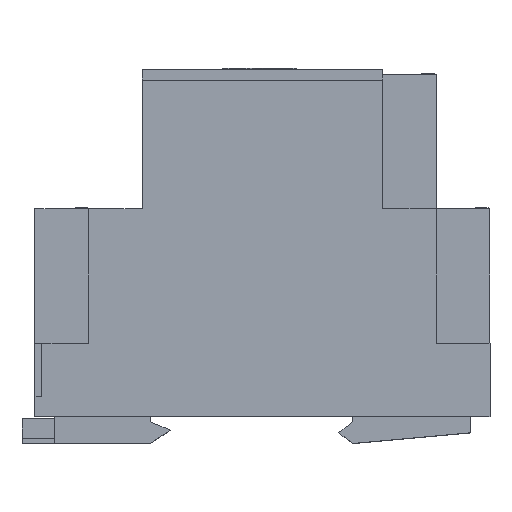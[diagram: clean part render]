
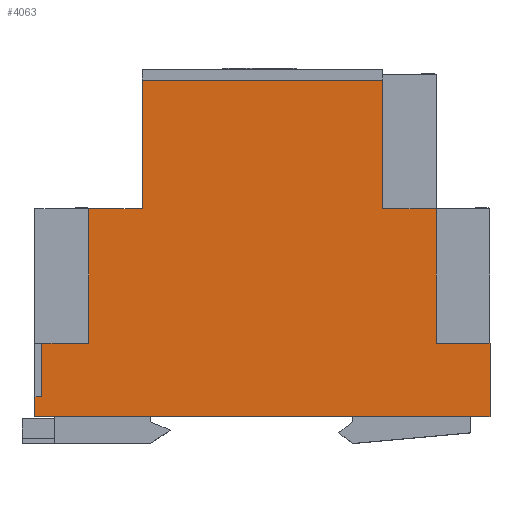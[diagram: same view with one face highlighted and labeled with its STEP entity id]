
A CAD part, top view. The second image highlights one B-rep face of the part: STEP entity #4063.
In plain terms, the highlighted planar face has unit normal (0, 0, 1).
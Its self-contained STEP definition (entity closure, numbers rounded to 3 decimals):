
#69 = DIRECTION ( 'NONE',  ( 0., -1., 0. ) ) ;
#306 = VECTOR ( 'NONE', #6703, 1000. ) ;
#366 = VERTEX_POINT ( 'NONE', #9468 ) ;
#502 = LINE ( 'NONE', #2864, #3675 ) ;
#874 = EDGE_CURVE ( 'NONE', #366, #11030, #10640, .T. ) ;
#945 = VERTEX_POINT ( 'NONE', #1248 ) ;
#1248 = CARTESIAN_POINT ( 'NONE',  ( -64.8, 38.7, 1.3 ) ) ;
#1309 = ORIENTED_EDGE ( 'NONE', *, *, #7697, .F. ) ;
#1435 = CARTESIAN_POINT ( 'NONE',  ( 0., 0., 1.3 ) ) ;
#1452 = CARTESIAN_POINT ( 'NONE',  ( -10., 0., 1.3 ) ) ;
#1535 = VERTEX_POINT ( 'NONE', #5343 ) ;
#1941 = EDGE_CURVE ( 'NONE', #6976, #13957, #8442, .T. ) ;
#1962 = EDGE_CURVE ( 'NONE', #6281, #15328, #16357, .T. ) ;
#2361 = LINE ( 'NONE', #3107, #16431 ) ;
#2465 = VERTEX_POINT ( 'NONE', #10576 ) ;
#2864 = CARTESIAN_POINT ( 'NONE',  ( 0., 0., 1.3 ) ) ;
#2957 = CARTESIAN_POINT ( 'NONE',  ( -83.5, 3.7, 1.3 ) ) ;
#3107 = CARTESIAN_POINT ( 'NONE',  ( -83.5, 3.7, 1.3 ) ) ;
#3133 = ORIENTED_EDGE ( 'NONE', *, *, #1941, .F. ) ;
#3217 = VERTEX_POINT ( 'NONE', #16687 ) ;
#3563 = VECTOR ( 'NONE', #12639, 1000. ) ;
#3675 = VECTOR ( 'NONE', #15157, 1000. ) ;
#3763 = DIRECTION ( 'NONE',  ( 1., 0., 0. ) ) ;
#3956 = CARTESIAN_POINT ( 'NONE',  ( 0., 0., 1.3 ) ) ;
#4063 = ADVANCED_FACE ( 'NONE', ( #15183 ), #14976, .T. ) ;
#4066 = EDGE_CURVE ( 'NONE', #1535, #13980, #7915, .T. ) ;
#4091 = VECTOR ( 'NONE', #11776, 1000. ) ;
#4222 = CARTESIAN_POINT ( 'NONE',  ( 0., 62.7, 1.3 ) ) ;
#4331 = CARTESIAN_POINT ( 'NONE',  ( 0., 0., 1.3 ) ) ;
#4424 = AXIS2_PLACEMENT_3D ( 'NONE', #4331, #11025, #16472 ) ;
#4426 = CARTESIAN_POINT ( 'NONE',  ( -20., 0., 1.3 ) ) ;
#4589 = EDGE_LOOP ( 'NONE', ( #15514, #1309, #7064, #13606, #8459, #12922, #6287, #6923, #16763, #8845, #10739, #3133, #10771, #10338 ) ) ;
#4601 = VECTOR ( 'NONE', #6620, 1000. ) ;
#4751 = LINE ( 'NONE', #3956, #306 ) ;
#4852 = DIRECTION ( 'NONE',  ( 0., 1., 0. ) ) ;
#5269 = LINE ( 'NONE', #13465, #4601 ) ;
#5343 = CARTESIAN_POINT ( 'NONE',  ( -64.8, 62.7, 1.3 ) ) ;
#5524 = VECTOR ( 'NONE', #6504, 1000. ) ;
#5565 = VECTOR ( 'NONE', #16586, 1000. ) ;
#5814 = EDGE_CURVE ( 'NONE', #16098, #6976, #5269, .T. ) ;
#6084 = VECTOR ( 'NONE', #3763, 1000. ) ;
#6213 = CARTESIAN_POINT ( 'NONE',  ( -84.8, 0., 1.3 ) ) ;
#6281 = VERTEX_POINT ( 'NONE', #2957 ) ;
#6287 = ORIENTED_EDGE ( 'NONE', *, *, #12171, .F. ) ;
#6504 = DIRECTION ( 'NONE',  ( 1., 0., 0. ) ) ;
#6620 = DIRECTION ( 'NONE',  ( 1., 0., 0. ) ) ;
#6703 = DIRECTION ( 'NONE',  ( 0., -1., 0. ) ) ;
#6761 = CARTESIAN_POINT ( 'NONE',  ( 0., 13.7, 1.3 ) ) ;
#6923 = ORIENTED_EDGE ( 'NONE', *, *, #9888, .F. ) ;
#6976 = VERTEX_POINT ( 'NONE', #17290 ) ;
#7064 = ORIENTED_EDGE ( 'NONE', *, *, #9454, .F. ) ;
#7697 = EDGE_CURVE ( 'NONE', #3217, #15328, #12001, .T. ) ;
#7778 = DIRECTION ( 'NONE',  ( 0., 1., 0. ) ) ;
#7836 = CARTESIAN_POINT ( 'NONE',  ( -83.5, 13.7, 1.3 ) ) ;
#7915 = LINE ( 'NONE', #4222, #5565 ) ;
#8182 = VECTOR ( 'NONE', #69, 1000. ) ;
#8442 = LINE ( 'NONE', #14586, #12526 ) ;
#8459 = ORIENTED_EDGE ( 'NONE', *, *, #874, .F. ) ;
#8551 = CARTESIAN_POINT ( 'NONE',  ( -20., 38.7, 1.3 ) ) ;
#8845 = ORIENTED_EDGE ( 'NONE', *, *, #10169, .F. ) ;
#9164 = EDGE_CURVE ( 'NONE', #6281, #16098, #2361, .T. ) ;
#9435 = EDGE_CURVE ( 'NONE', #2465, #366, #9902, .T. ) ;
#9454 = EDGE_CURVE ( 'NONE', #13652, #3217, #502, .T. ) ;
#9468 = CARTESIAN_POINT ( 'NONE',  ( -10., 13.7, 1.3 ) ) ;
#9544 = LINE ( 'NONE', #17500, #6084 ) ;
#9888 = EDGE_CURVE ( 'NONE', #13980, #12109, #13410, .T. ) ;
#9902 = LINE ( 'NONE', #1452, #8182 ) ;
#10123 = DIRECTION ( 'NONE',  ( 0., 1., 0. ) ) ;
#10169 = EDGE_CURVE ( 'NONE', #945, #1535, #16373, .T. ) ;
#10246 = EDGE_CURVE ( 'NONE', #13957, #945, #9544, .T. ) ;
#10338 = ORIENTED_EDGE ( 'NONE', *, *, #9164, .F. ) ;
#10576 = CARTESIAN_POINT ( 'NONE',  ( -10., 38.7, 1.3 ) ) ;
#10640 = LINE ( 'NONE', #6761, #5524 ) ;
#10739 = ORIENTED_EDGE ( 'NONE', *, *, #10246, .F. ) ;
#10771 = ORIENTED_EDGE ( 'NONE', *, *, #5814, .F. ) ;
#11025 = DIRECTION ( 'NONE',  ( 0., 0., 1. ) ) ;
#11030 = VERTEX_POINT ( 'NONE', #13569 ) ;
#11776 = DIRECTION ( 'NONE',  ( 1., 0., 0. ) ) ;
#12001 = LINE ( 'NONE', #6213, #17344 ) ;
#12109 = VERTEX_POINT ( 'NONE', #8551 ) ;
#12171 = EDGE_CURVE ( 'NONE', #12109, #2465, #14788, .T. ) ;
#12204 = CARTESIAN_POINT ( 'NONE',  ( -74.8, 38.7, 1.3 ) ) ;
#12526 = VECTOR ( 'NONE', #4852, 1000. ) ;
#12639 = DIRECTION ( 'NONE',  ( 0., -1., 0. ) ) ;
#12731 = VECTOR ( 'NONE', #14532, 1000. ) ;
#12922 = ORIENTED_EDGE ( 'NONE', *, *, #9435, .F. ) ;
#13239 = CARTESIAN_POINT ( 'NONE',  ( 0., 38.7, 1.3 ) ) ;
#13410 = LINE ( 'NONE', #4426, #3563 ) ;
#13465 = CARTESIAN_POINT ( 'NONE',  ( 0., 13.7, 1.3 ) ) ;
#13569 = CARTESIAN_POINT ( 'NONE',  ( 0., 13.7, 1.3 ) ) ;
#13606 = ORIENTED_EDGE ( 'NONE', *, *, #14486, .F. ) ;
#13652 = VERTEX_POINT ( 'NONE', #1435 ) ;
#13944 = CARTESIAN_POINT ( 'NONE',  ( -84.8, 3.7, 1.3 ) ) ;
#13957 = VERTEX_POINT ( 'NONE', #12204 ) ;
#13980 = VERTEX_POINT ( 'NONE', #14942 ) ;
#14486 = EDGE_CURVE ( 'NONE', #11030, #13652, #4751, .T. ) ;
#14532 = DIRECTION ( 'NONE',  ( -1., 0., 0. ) ) ;
#14586 = CARTESIAN_POINT ( 'NONE',  ( -74.8, 0., 1.3 ) ) ;
#14788 = LINE ( 'NONE', #13239, #4091 ) ;
#14942 = CARTESIAN_POINT ( 'NONE',  ( -20., 62.7, 1.3 ) ) ;
#14976 = PLANE ( 'NONE',  #4424 ) ;
#15157 = DIRECTION ( 'NONE',  ( -1., 0., 0. ) ) ;
#15183 = FACE_OUTER_BOUND ( 'NONE', #4589, .T. ) ;
#15328 = VERTEX_POINT ( 'NONE', #13944 ) ;
#15514 = ORIENTED_EDGE ( 'NONE', *, *, #1962, .T. ) ;
#15968 = CARTESIAN_POINT ( 'NONE',  ( -64.8, 0., 1.3 ) ) ;
#16034 = CARTESIAN_POINT ( 'NONE',  ( -83.5, 3.7, 1.3 ) ) ;
#16098 = VERTEX_POINT ( 'NONE', #7836 ) ;
#16357 = LINE ( 'NONE', #16034, #12731 ) ;
#16373 = LINE ( 'NONE', #15968, #16793 ) ;
#16431 = VECTOR ( 'NONE', #17307, 1000. ) ;
#16472 = DIRECTION ( 'NONE',  ( 1., 0., 0. ) ) ;
#16586 = DIRECTION ( 'NONE',  ( 1., 0., 0. ) ) ;
#16687 = CARTESIAN_POINT ( 'NONE',  ( -84.8, 0., 1.3 ) ) ;
#16763 = ORIENTED_EDGE ( 'NONE', *, *, #4066, .F. ) ;
#16793 = VECTOR ( 'NONE', #7778, 1000. ) ;
#17290 = CARTESIAN_POINT ( 'NONE',  ( -74.8, 13.7, 1.3 ) ) ;
#17307 = DIRECTION ( 'NONE',  ( 0., 1., 0. ) ) ;
#17344 = VECTOR ( 'NONE', #10123, 1000. ) ;
#17500 = CARTESIAN_POINT ( 'NONE',  ( 0., 38.7, 1.3 ) ) ;
